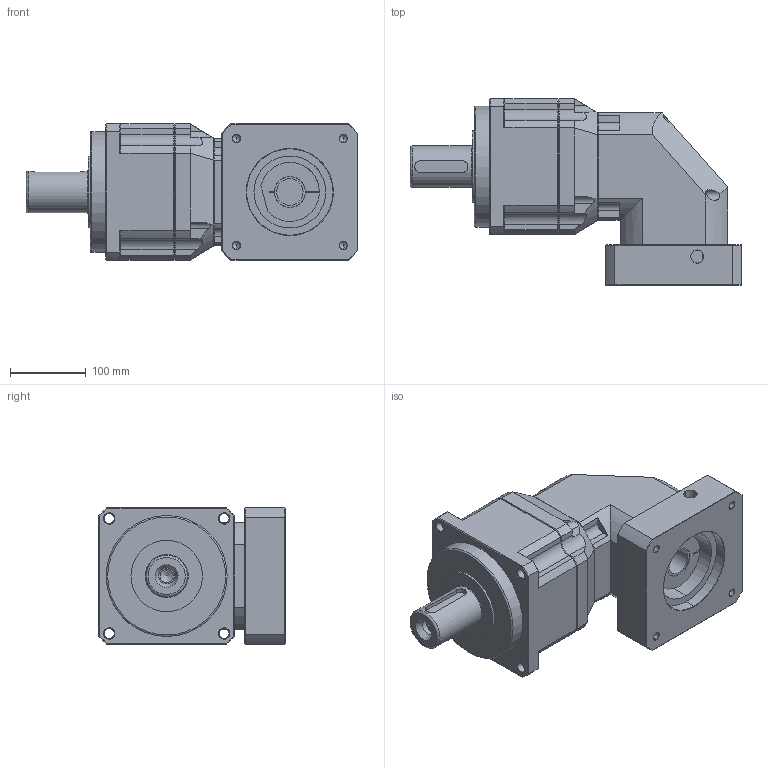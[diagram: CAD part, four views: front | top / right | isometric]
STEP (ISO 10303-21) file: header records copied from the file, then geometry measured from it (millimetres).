
FILE_DESCRIPTION(/* description */ (''),/* implementation_level */ '2;1');
FILE_NAME(/* name */ 'TBR180-L2-35-114.3-200-M12-97-15.stp',/* time_stamp */ '2021-02-25T17:12:30+08:00',/* author */ (''),/* organization */ (''),/* preprocessor_version */ 'ST-DEVELOPER v16',/* originating_system */ 'SIEMENS PLM Software NX 10.0',/* authorisation */ '');
FILE_SCHEMA (('CONFIG_CONTROL_DESIGN'));
Length unit declared in the file: millimetre
Products named in the file (1): _model390
Bounding box: 438.8 x 247 x 180 mm (x, y, z)
Volume: 9086346.7 mm3; surface area: 512054 mm2
Topology: 5 solids, 5 shells, 507 faces, 1227 edges, 745 vertices
Faces by surface type: plane 207, cylinder 152, cone 133, bspline 8, torus 7
Full cylindrical faces by diameter (mm): 6.8 x5, 8.5 x5, 11 x4, 13 x4, 14 x1, 16.7 x1, 17.5 x1, 21 x1, 35 x1, 35.5 x1, 49.5 x1, 52 x2, 55 x4, 60 x1, 94.5 x1, 160 x1
Entity records: 15061 total; most frequent: CARTESIAN_POINT 3781, DIRECTION 2325, ORIENTED_EDGE 2220, EDGE_CURVE 1110, AXIS2_PLACEMENT_3D 913, VERTEX_POINT 725, EDGE_LOOP 634, ADVANCED_FACE 507
